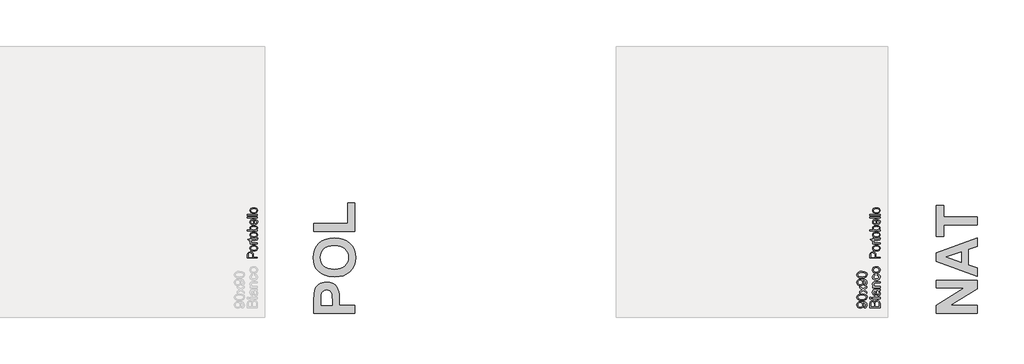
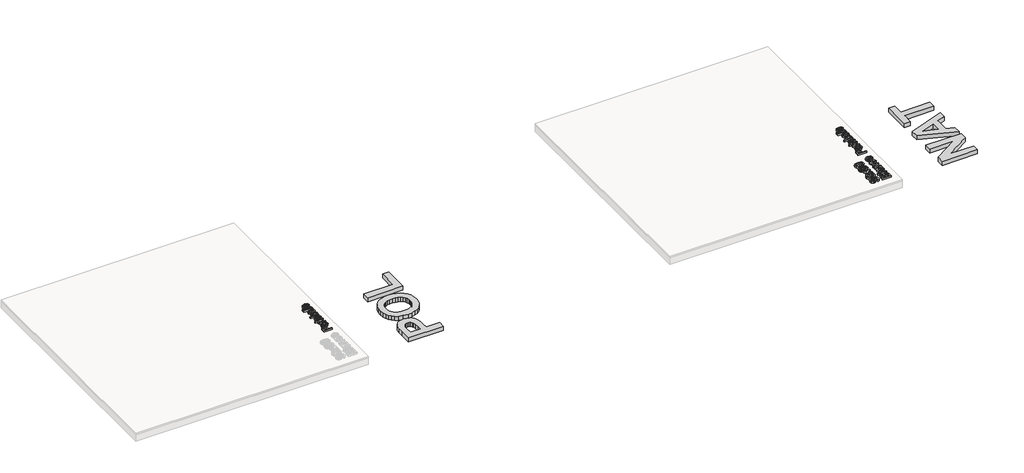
# One storey, part 8 of 14: 6 proxies.
"""IFC4 building model written with IfcOpenShell, lengths in millimetres."""

from ifc_helpers import new_model, si_unit, frame, origin, origin_with_axes, place, context, project, spatial, polyline, outline, extrude, element, save

model = new_model("IFC4")

# Units and contexts
model_context = context("Model", 3, world=origin())
ifc_project = project(units=[si_unit("LENGTHUNIT", "METRE", prefix="MILLI")], contexts=[model_context])

# Site, building, storey
site = spatial("IfcSite", under=ifc_project)
building = spatial("IfcBuilding", under=site)
storey = spatial("IfcBuildingStorey", under=building, Name="PORTOBELLO - SHOWROOM", Elevation=0.0)

# Proxies
placement = place(None, origin())
element("IfcBuildingElementProxy", 1, Name="10mm Arial", ObjectType="10mm Arial", at=placement, inside=storey, context=model_context, shape_type="SweptSolid", body=[
    extrude(outline(polyline([(-4352.1931166, 5529.8621307), (-4452.6494267, 5529.8621307), (-4452.6494267, 5568.1954346), (-4449.694108, 5586.9696791), (-4440.6074227, 5598.0551899), (-4427.7560784, 5602.0651036), (-4416.0206427, 5598.692852), (-4407.1301612, 5588.5025207), (-4397.761433, 5600.8756185), (-4382.138711, 5605.2043633), (-4368.6374418, 5602.2490446), (-4359.0234589, 5594.9281929), (-4353.9221619, 5584.0020977), (-4352.1931166, 5567.901129), (-4352.1931166, 5529.8621307)]), holes=[polyline([(-4411.8390507, 5542.4191695), (-4411.8390507, 5565.3504805), (-4412.9181712, 5578.7413851), (-4417.5657471, 5586.7980008), (-4425.7449901, 5589.5080648), (-4433.9364959, 5586.9819418), (-4438.7802755, 5579.7469292), (-4440.0923879, 5563.6091724), (-4440.0923879, 5542.4191695), (-4411.8390507, 5542.4191695)]), polyline([(-4364.7501553, 5542.4191695), (-4364.7501553, 5568.1709091), (-4365.2406647, 5577.4905863), (-4367.9752542, 5585.3755238), (-4373.5547978, 5590.5994481), (-4382.0160836, 5592.6473245), (-4391.7772192, 5590.2438288), (-4397.6020175, 5582.4569933), (-4399.2820119, 5566.9446358), (-4399.2820119, 5542.4191695), (-4364.7501553, 5542.4191695)])]), frame((0.0, 0.0, 18.0), z_axis=(0.0, 0.0, 1.0), x_axis=(1.0, 0.0, 0.0)), (0.0, 0.0, 1.0), 20.0),
    extrude(outline(polyline([(-4440.0923879, 5620.9006618), (-4452.6494267, 5620.9006618), (-4452.6494267, 5633.4577005), (-4440.0923879, 5633.4577005), (-4440.0923879, 5620.9006618)])), frame((0.0, 0.0, 18.0), z_axis=(0.0, 0.0, 1.0), x_axis=(1.0, 0.0, 0.0)), (0.0, 0.0, 1.0), 20.0),
    extrude(outline(polyline([(-4352.1931166, 5620.9006618), (-4425.9657193, 5620.9006618), (-4425.9657193, 5633.4577005), (-4352.1931166, 5633.4577005), (-4352.1931166, 5620.9006618)])), frame((0.0, 0.0, 18.0), z_axis=(0.0, 0.0, 1.0), x_axis=(1.0, 0.0, 0.0)), (0.0, 0.0, 1.0), 20.0),
    extrude(outline(polyline([(-4361.6108956, 5699.3821541), (-4353.1005588, 5687.20526), (-4350.6234867, 5673.7530417), (-4352.1134088, 5663.2592078), (-4356.583175, 5655.5183575), (-4363.3705979, 5650.7450886), (-4371.8134896, 5649.153999), (-4381.7463035, 5651.5574947), (-4388.9567906, 5657.8728023), (-4393.077069, 5666.665182), (-4394.9655299, 5677.5299636), (-4399.2820119, 5699.3085777), (-4402.0779151, 5699.3821541), (-4411.3485414, 5695.9240633), (-4414.9783104, 5682.0426494), (-4412.562552, 5669.3384578), (-4403.9909015, 5663.2806676), (-4405.5605313, 5650.7236288), (-4417.8232645, 5656.1560196), (-4425.0092261, 5667.0943776), (-4427.5353492, 5683.6613301), (-4425.3035317, 5698.879382), (-4419.6994627, 5707.475558), (-4411.1768631, 5711.3260562), (-4400.1894542, 5711.9391928), (-4384.5667321, 5711.9391928), (-4362.7513298, 5712.576855), (-4352.1931166, 5715.0784525), (-4352.1931166, 5702.5214138), (-4361.6108956, 5699.3821541)]), holes=[polyline([(-4386.7249732, 5699.3821541), (-4382.874475, 5679.1241189), (-4380.8388613, 5668.3206509), (-4377.5279233, 5663.4278204), (-4372.6964064, 5661.7110378), (-4365.9028523, 5665.4511714), (-4363.1805255, 5676.4263176), (-4366.1848951, 5689.1305091), (-4373.4566959, 5697.3220149), (-4383.1687806, 5699.3085777), (-4386.7249732, 5699.3821541)])]), frame((0.0, 0.0, 18.0), z_axis=(0.0, 0.0, 1.0), x_axis=(1.0, 0.0, 0.0)), (0.0, 0.0, 1.0), 20.0),
    extrude(outline(polyline([(-4352.1931166, 5729.2051211), (-4425.9657193, 5729.2051211), (-4425.9657193, 5741.7621599), (-4415.6650235, 5741.7621599), (-4424.5677678, 5751.36388), (-4427.5353492, 5764.4727418), (-4425.1441162, 5776.3308047), (-4418.8655968, 5784.4242086), (-4409.6317587, 5788.1888677), (-4397.4916529, 5788.8510553), (-4352.1931166, 5788.8510553), (-4352.1931166, 5776.2940165), (-4395.7993957, 5776.2940165), (-4406.909432, 5774.847014), (-4412.7832812, 5769.7334543), (-4414.9783104, 5761.1127529), (-4410.0486917, 5747.4888563), (-4402.9056496, 5743.193834), (-4391.3357609, 5741.7621599), (-4352.1931166, 5741.7621599), (-4352.1931166, 5729.2051211)])), frame((0.0, 0.0, 18.0), z_axis=(0.0, 0.0, 1.0), x_axis=(1.0, 0.0, 0.0)), (0.0, 0.0, 1.0), 20.0),
    extrude(outline(polyline([(-4378.8768239, 5853.205879), (-4377.3071941, 5865.7629178), (-4366.1389099, 5862.2619074), (-4357.6990838, 5855.6829511), (-4352.392386, 5846.6453167), (-4350.6234867, 5835.7682724), (-4353.0913618, 5822.4110903), (-4360.4949869, 5811.9663073), (-4372.5093997, 5805.2248698), (-4388.8096378, 5802.9777239), (-4409.6685469, 5806.8159594), (-4423.0717143, 5818.5146068), (-4427.5353492, 5835.5965942), (-4426.0025075, 5846.206924), (-4421.4039826, 5854.6896697), (-4413.985029, 5860.775051), (-4403.9909015, 5864.1932879), (-4402.4212716, 5851.6362491), (-4411.826788, 5845.8114509), (-4414.9783104, 5835.694696), (-4413.4270747, 5827.5798323), (-4408.7733674, 5821.1388317), (-4400.7658027, 5816.9357799), (-4389.1529943, 5815.5347627), (-4377.3838362, 5816.9051231), (-4369.3486803, 5821.0162044), (-4364.7225642, 5827.340709), (-4363.1805255, 5835.3513395), (-4367.0310237, 5847.184877), (-4378.8768239, 5853.205879)])), frame((0.0, 0.0, 18.0), z_axis=(0.0, 0.0, 1.0), x_axis=(1.0, 0.0, 0.0)), (0.0, 0.0, 1.0), 20.0),
    extrude(outline(polyline([(-4389.0794179, 5873.611067), (-4406.8665124, 5876.3272624), (-4419.3683689, 5884.4758486), (-4425.4936041, 5894.5435525), (-4427.5353492, 5906.5978192), (-4425.04908, 5919.7894544), (-4417.5902726, 5930.3262079), (-4405.747538, 5937.2331924), (-4390.1094875, 5939.5355205), (-4367.7667877, 5935.4642931), (-4355.1239098, 5923.6062301), (-4350.6234867, 5906.5978192), (-4353.1005588, 5893.2467685), (-4360.5317751, 5882.7222777), (-4372.62283, 5875.8888697), (-4389.0794179, 5873.611067)]), holes=[polyline([(-4389.1039434, 5886.1681058), (-4377.7394554, 5887.6212396), (-4369.6429859, 5891.9806413), (-4364.7961406, 5898.5412035), (-4363.1805255, 5906.5978192), (-4364.8053376, 5914.6176467), (-4369.6797741, 5921.1659462), (-4377.8835426, 5925.5253479), (-4389.4963509, 5926.9784818), (-4400.529745, 5925.5161508), (-4408.51585, 5921.129158), (-4413.3626953, 5914.5716615), (-4414.9783104, 5906.5978192), (-4413.3688267, 5898.5412035), (-4408.5403755, 5891.9806413), (-4400.4623, 5887.6212396), (-4389.1039434, 5886.1681058)])]), frame((0.0, 0.0, 18.0), z_axis=(0.0, 0.0, 1.0), x_axis=(1.0, 0.0, 0.0)), (0.0, 0.0, 1.0), 20.0),
])
element("IfcBuildingElementProxy", 2, Name="10mm Arial", ObjectType="10mm Arial", at=placement, inside=storey, context=model_context, shape_type="SweptSolid", body=[
    extrude(outline(polyline([(-4507.3071941, 5526.722871), (-4508.8768239, 5539.2799098), (-4496.8961336, 5544.920767), (-4493.1805255, 5555.6138704), (-4495.5717585, 5565.7796762), (-4501.9606424, 5572.6713322), (-4512.874475, 5576.7793478), (-4527.442602, 5578.5942323), (-4529.8951486, 5578.5206559), (-4520.3792677, 5568.4774775), (-4516.7249732, 5554.7064281), (-4518.9567906, 5543.256101), (-4525.6522429, 5533.7248916), (-4535.9958584, 5527.2961538), (-4549.1721652, 5525.1532412), (-4562.783799, 5527.400387), (-4573.4523768, 5534.1418246), (-4580.3501642, 5544.2677765), (-4582.6494267, 5556.6684654), (-4577.4009769, 5574.5597931), (-4562.4404424, 5586.8715772), (-4534.334258, 5591.0776947), (-4503.8368406, 5586.8838399), (-4493.8457788, 5581.6691127), (-4486.5586496, 5574.4126403), (-4482.1072774, 5565.4271226), (-4480.6234867, 5555.0252592), (-4482.3739919, 5544.2892363), (-4487.6255074, 5535.7237172), (-4496.0469394, 5529.733372), (-4507.3071941, 5526.722871)]), holes=[polyline([(-4549.4664708, 5578.5206559), (-4557.9768076, 5577.1656239), (-4564.5251071, 5573.1005279), (-4568.7005677, 5566.7913516), (-4570.0923879, 5558.7040791), (-4568.5932688, 5550.3163696), (-4564.0959114, 5543.5963918), (-4557.2134524, 5539.1818079), (-4548.5590285, 5537.7102799), (-4540.7997841, 5539.1021001), (-4534.6408263, 5543.2775608), (-4530.6217155, 5549.8319917), (-4529.2820119, 5558.3607226), (-4534.6408263, 5572.8430105), (-4541.0266446, 5577.1012446), (-4549.4664708, 5578.5206559)])]), frame((0.0, 0.0, 18.0), z_axis=(0.0, 0.0, 1.0), x_axis=(1.0, 0.0, 0.0)), (0.0, 0.0, 1.0), 20.0),
    extrude(outline(polyline([(-4531.6119313, 5602.0651036), (-4560.5151933, 5605.7561863), (-4577.1802477, 5616.7190698), (-4582.6494267, 5635.0273304), (-4579.4120652, 5649.6935593), (-4570.0801252, 5659.8225769), (-4555.2176926, 5665.7086888), (-4531.6119313, 5667.9895571), (-4502.8312965, 5664.3352627), (-4486.1294539, 5653.4091674), (-4481.9999785, 5645.1778078), (-4480.6234867, 5635.0273304), (-4483.0147197, 5621.9797823), (-4490.1884186, 5612.0714939), (-4507.1784354, 5604.5667012), (-4531.6119313, 5602.0651036)]), holes=[polyline([(-4531.6364567, 5614.6221424), (-4511.8842593, 5616.0936704), (-4500.4523263, 5620.5082543), (-4494.9984757, 5627.0810793), (-4493.1805255, 5635.0273304), (-4495.004607, 5642.9735815), (-4500.4768517, 5649.5464065), (-4511.9149161, 5653.9609904), (-4531.6364567, 5655.4325184), (-4550.9441301, 5654.0100413), (-4562.4649679, 5649.7426102), (-4568.1855329, 5643.1820479), (-4570.0923879, 5634.8801776), (-4568.4123935, 5627.0197656), (-4563.3724102, 5620.704458), (-4551.1342025, 5616.1427213), (-4531.6364567, 5614.6221424)])]), frame((0.0, 0.0, 18.0), z_axis=(0.0, 0.0, 1.0), x_axis=(1.0, 0.0, 0.0)), (0.0, 0.0, 1.0), 20.0),
    extrude(outline(polyline([(-4482.1931166, 5674.2680765), (-4519.3001471, 5701.0989367), (-4555.9657193, 5675.8377064), (-4555.9657193, 5690.8963427), (-4538.2828581, 5703.0854995), (-4529.968725, 5708.7999331), (-4536.7868047, 5713.7540773), (-4555.9657193, 5727.6354913), (-4555.9657193, 5742.7431786), (-4519.2756217, 5716.206624), (-4482.1931166, 5741.7621599), (-4482.1931166, 5726.6789981), (-4504.5112909, 5711.2770052), (-4508.6070438, 5708.4811021), (-4482.1931166, 5689.3757638), (-4482.1931166, 5674.2680765)])), frame((0.0, 0.0, 18.0), z_axis=(0.0, 0.0, 1.0), x_axis=(1.0, 0.0, 0.0)), (0.0, 0.0, 1.0), 20.0),
    extrude(outline(polyline([(-4507.3071941, 5751.179939), (-4508.8768239, 5763.7369778), (-4496.8961336, 5769.377835), (-4493.1805255, 5780.0709383), (-4495.5717585, 5790.2367441), (-4501.9606424, 5797.1284002), (-4512.874475, 5801.2364158), (-4527.442602, 5803.0513003), (-4529.8951486, 5802.9777239), (-4520.3792677, 5792.9345454), (-4516.7249732, 5779.1634961), (-4518.9567906, 5767.713169), (-4525.6522429, 5758.1819596), (-4535.9958584, 5751.7532218), (-4549.1721652, 5749.6103091), (-4562.783799, 5751.857455), (-4573.4523768, 5758.5988926), (-4580.3501642, 5768.7248445), (-4582.6494267, 5781.1255334), (-4577.4009769, 5799.0168611), (-4562.4404424, 5811.3286452), (-4534.334258, 5815.5347627), (-4503.8368406, 5811.3409079), (-4493.8457788, 5806.1261807), (-4486.5586496, 5798.8697083), (-4482.1072774, 5789.8841906), (-4480.6234867, 5779.4823272), (-4482.3739919, 5768.7463043), (-4487.6255074, 5760.1807851), (-4496.0469394, 5754.19044), (-4507.3071941, 5751.179939)]), holes=[polyline([(-4549.4664708, 5802.9777239), (-4557.9768076, 5801.6226919), (-4564.5251071, 5797.5575959), (-4568.7005677, 5791.2484196), (-4570.0923879, 5783.1611471), (-4568.5932688, 5774.7734376), (-4564.0959114, 5768.0534598), (-4557.2134524, 5763.6388759), (-4548.5590285, 5762.1673479), (-4540.7997841, 5763.5591681), (-4534.6408263, 5767.7346288), (-4530.6217155, 5774.2890597), (-4529.2820119, 5782.8177906), (-4534.6408263, 5797.3000785), (-4541.0266446, 5801.5583125), (-4549.4664708, 5802.9777239)])]), frame((0.0, 0.0, 18.0), z_axis=(0.0, 0.0, 1.0), x_axis=(1.0, 0.0, 0.0)), (0.0, 0.0, 1.0), 20.0),
    extrude(outline(polyline([(-4531.6119313, 5826.5221716), (-4560.5151933, 5830.2132543), (-4577.1802477, 5841.1761377), (-4582.6494267, 5859.4843984), (-4579.4120652, 5874.1506272), (-4570.0801252, 5884.2796448), (-4555.2176926, 5890.1657568), (-4531.6119313, 5892.4466251), (-4502.8312965, 5888.7923307), (-4486.1294539, 5877.8662354), (-4481.9999785, 5869.6348758), (-4480.6234867, 5859.4843984), (-4483.0147197, 5846.4368503), (-4490.1884186, 5836.5285619), (-4507.1784354, 5829.0237692), (-4531.6119313, 5826.5221716)]), holes=[polyline([(-4531.6364567, 5839.0792104), (-4511.8842593, 5840.5507384), (-4500.4523263, 5844.9653223), (-4494.9984757, 5851.5381473), (-4493.1805255, 5859.4843984), (-4495.004607, 5867.4306495), (-4500.4768517, 5874.0034744), (-4511.9149161, 5878.4180584), (-4531.6364567, 5879.8895864), (-4550.9441301, 5878.4671093), (-4562.4649679, 5874.1996782), (-4568.1855329, 5867.6391159), (-4570.0923879, 5859.3372456), (-4568.4123935, 5851.4768336), (-4563.3724102, 5845.161526), (-4551.1342025, 5840.5997893), (-4531.6364567, 5839.0792104)])]), frame((0.0, 0.0, 18.0), z_axis=(0.0, 0.0, 1.0), x_axis=(1.0, 0.0, 0.0)), (0.0, 0.0, 1.0), 20.0),
])
element("IfcBuildingElementProxy", 3, Name="10mm Arial Narrow", ObjectType="10mm Arial Narrow", at=placement, inside=storey, context=model_context, shape_type="SweptSolid", body=[
    extrude(outline(polyline([(-10552.2181326, 6024.5809264), (-10652.9367364, 6024.5809264), (-10652.9367364, 6055.8778111), (-10651.0584157, 6072.1735126), (-10641.5779725, 6083.6464987), (-10624.5588637, 6087.9361772), (-10612.4830381, 6086.1498688), (-10602.8566444, 6080.7909436), (-10596.555386, 6071.0471547), (-10594.4549665, 6056.1062555), (-10594.4549665, 6034.3278881), (-10552.2181326, 6034.3278881), (-10552.2181326, 6024.5809264)]), holes=[polyline([(-10605.8264217, 6034.3278881), (-10605.8264217, 6057.299243), (-10610.3572359, 6073.1634384), (-10624.0258267, 6078.1892155), (-10634.1916031, 6075.714401), (-10639.991553, 6069.7367722), (-10641.5652811, 6057.0707986), (-10641.5652811, 6034.3278881), (-10605.8264217, 6034.3278881)])]), frame((0.0, 0.0, 18.0), z_axis=(0.0, 0.0, 1.0), x_axis=(1.0, 0.0, 0.0)), (0.0, 0.0, 1.0), 20.0),
    extrude(outline(polyline([(-10588.7692388, 6096.0586452), (-10605.3600144, 6098.0131141), (-10617.3120992, 6103.8765207), (-10624.5366538, 6112.7350874), (-10626.9448387, 6123.6750366), (-10624.5366538, 6134.4880721), (-10617.3120992, 6143.3720216), (-10605.5503847, 6149.3115763), (-10589.5307202, 6151.2914279), (-10572.3688336, 6149.3464776), (-10560.2263785, 6143.5116265), (-10553.0018239, 6134.6625783), (-10550.593639, 6123.6750366), (-10553.0081696, 6112.8144084), (-10560.2517612, 6103.9399775), (-10572.2101917, 6098.0289783), (-10588.7692388, 6096.0586452)]), holes=[polyline([(-10588.7946216, 6105.8056069), (-10576.2428702, 6107.1096437), (-10567.3716121, 6111.0217543), (-10562.0983535, 6116.8629511), (-10560.3406007, 6123.9542464), (-10562.1142177, 6130.6743196), (-10567.4350689, 6136.3663929), (-10576.3221911, 6140.2499479), (-10588.7946216, 6141.5444663), (-10601.3082989, 6140.2404294), (-10610.1668656, 6136.3283188), (-10615.4401242, 6130.4871221), (-10617.197877, 6123.3958267), (-10615.4306056, 6116.628161), (-10610.1287915, 6110.9456062), (-10601.2607063, 6107.0906067), (-10588.7946216, 6105.8056069)])]), frame((0.0, 0.0, 18.0), z_axis=(0.0, 0.0, 1.0), x_axis=(1.0, 0.0, 0.0)), (0.0, 0.0, 1.0), 20.0),
    extrude(outline(polyline([(-10560.3406007, 6222.7691467), (-10550.593639, 6224.3936403), (-10550.593639, 6217.0326537), (-10552.7130955, 6208.7578893), (-10558.5130454, 6204.4428282), (-10573.1588706, 6203.2752234), (-10615.5733834, 6203.2752234), (-10615.5733834, 6195.1527554), (-10618.8223706, 6195.1527554), (-10613.9488898, 6193.5282617), (-10615.5733834, 6185.9642134), (-10613.2508652, 6179.8850537), (-10606.7655821, 6176.01419), (-10591.3582755, 6174.0343384), (-10552.2181326, 6174.0343384), (-10552.2181326, 6164.2873768), (-10625.320345, 6164.2873768), (-10625.320345, 6174.0343384), (-10615.6241488, 6174.0343384), (-10624.7111599, 6180.2784858), (-10626.9448387, 6186.6749293), (-10625.320345, 6195.1527554), (-10625.320345, 6203.2752234), (-10641.5652811, 6203.2752234), (-10649.6877492, 6213.0221851), (-10625.320345, 6213.0221851), (-10625.320345, 6222.7691467), (-10615.5733834, 6222.7691467), (-10615.5733834, 6213.0221851), (-10570.9251919, 6213.0221851), (-10562.9296374, 6213.8851973), (-10560.3406007, 6218.504851), (-10560.3406007, 6222.7691467)])), frame((0.0, 0.0, 18.0), z_axis=(0.0, 0.0, 1.0), x_axis=(1.0, 0.0, 0.0)), (0.0, 0.0, 1.0), 20.0),
    extrude(outline(polyline([(-10588.7692388, 6229.2671211), (-10605.3600144, 6231.22159), (-10617.3120992, 6237.0849966), (-10624.5366538, 6245.9435633), (-10626.9448387, 6256.8835125), (-10624.5366538, 6267.6965481), (-10617.3120992, 6276.5804975), (-10605.5503847, 6282.5200523), (-10589.5307202, 6284.4999038), (-10572.3688336, 6282.5549535), (-10560.2263785, 6276.7201024), (-10553.0018239, 6267.8710542), (-10550.593639, 6256.8835125), (-10553.0081696, 6246.0228843), (-10560.2517612, 6237.1484534), (-10572.2101917, 6231.2374542), (-10588.7692388, 6229.2671211)]), holes=[polyline([(-10588.7946216, 6239.0140828), (-10576.2428702, 6240.3181197), (-10567.3716121, 6244.2302302), (-10562.0983535, 6250.071427), (-10560.3406007, 6257.1627223), (-10562.1142177, 6263.8827955), (-10567.4350689, 6269.5748688), (-10576.3221911, 6273.4584238), (-10588.7946216, 6274.7529422), (-10601.3082989, 6273.4489053), (-10610.1668656, 6269.5367947), (-10615.4401242, 6263.695598), (-10617.197877, 6256.6043027), (-10615.4306056, 6249.8366369), (-10610.1287915, 6244.1540821), (-10601.2607063, 6240.2990826), (-10588.7946216, 6239.0140828)])]), frame((0.0, 0.0, 18.0), z_axis=(0.0, 0.0, 1.0), x_axis=(1.0, 0.0, 0.0)), (0.0, 0.0, 1.0), 20.0),
    extrude(outline(polyline([(-10552.2181326, 6307.2428144), (-10552.2181326, 6297.4958527), (-10652.9367364, 6297.4958527), (-10652.9367364, 6307.2428144), (-10617.5278523, 6307.2428144), (-10624.6096291, 6314.6418751), (-10626.9448387, 6323.8431084), (-10622.7439997, 6336.7248351), (-10610.0145693, 6346.0022166), (-10589.3276585, 6349.4796482), (-10572.8733151, 6347.5473892), (-10560.670576, 6341.7506122), (-10553.1128733, 6333.3774899), (-10550.593639, 6323.7161949), (-10553.2080584, 6314.3753566), (-10560.9751685, 6307.2428144), (-10552.2181326, 6307.2428144)]), holes=[polyline([(-10589.3276585, 6307.2428144), (-10572.0801053, 6309.3241968), (-10563.3484521, 6315.2129861), (-10560.3406007, 6323.6654295), (-10562.1300819, 6329.608157), (-10567.4985257, 6334.8465144), (-10588.9215351, 6339.7326866), (-10610.3572359, 6335.0241934), (-10615.4877167, 6329.7794904), (-10617.197877, 6323.4623677), (-10615.4083958, 6317.4847389), (-10610.039952, 6312.1924433), (-10589.3276585, 6307.2428144)])]), frame((0.0, 0.0, 18.0), z_axis=(0.0, 0.0, 1.0), x_axis=(1.0, 0.0, 0.0)), (0.0, 0.0, 1.0), 20.0),
    extrude(outline(polyline([(-10574.9610432, 6401.4634437), (-10573.3365496, 6411.2104053), (-10563.449983, 6407.510875), (-10556.3301321, 6401.6918881), (-10552.0277623, 6393.9882348), (-10550.593639, 6384.6347052), (-10553.0081696, 6373.0411512), (-10560.2517612, 6363.897029), (-10572.0578954, 6357.9574742), (-10588.1600537, 6355.9776226), (-10604.8269774, 6357.9669927), (-10617.0075067, 6363.9351031), (-10624.4605057, 6372.9491389), (-10626.9448387, 6384.0762855), (-10624.5461723, 6394.7592347), (-10617.3501733, 6403.5067521), (-10605.6106687, 6409.3416031), (-10589.5814857, 6411.2865535), (-10586.3324984, 6411.2104053), (-10586.3324984, 6365.7245843), (-10566.8893406, 6371.7275958), (-10561.9777857, 6377.6576321), (-10560.3406007, 6384.7616188), (-10563.9957113, 6394.9400865), (-10574.9610432, 6401.4634437)]), holes=[polyline([(-10596.0794601, 6366.3845348), (-10596.0794601, 6401.4634437), (-10610.3445446, 6397.199148), (-10615.4845439, 6391.3738154), (-10617.197877, 6384.1524337), (-10611.4867667, 6371.9433489), (-10596.0794601, 6366.3845348)])]), frame((0.0, 0.0, 18.0), z_axis=(0.0, 0.0, 1.0), x_axis=(1.0, 0.0, 0.0)), (0.0, 0.0, 1.0), 20.0),
    extrude(outline(polyline([(-10552.2181326, 6424.2063542), (-10652.9367364, 6424.2063542), (-10652.9367364, 6433.9533159), (-10552.2181326, 6433.9533159), (-10552.2181326, 6424.2063542)])), frame((0.0, 0.0, 18.0), z_axis=(0.0, 0.0, 1.0), x_axis=(1.0, 0.0, 0.0)), (0.0, 0.0, 1.0), 20.0),
    extrude(outline(polyline([(-10552.2181326, 6450.198252), (-10652.9367364, 6450.198252), (-10652.9367364, 6459.9452136), (-10552.2181326, 6459.9452136), (-10552.2181326, 6450.198252)])), frame((0.0, 0.0, 18.0), z_axis=(0.0, 0.0, 1.0), x_axis=(1.0, 0.0, 0.0)), (0.0, 0.0, 1.0), 20.0),
    extrude(outline(polyline([(-10588.7692388, 6471.3166689), (-10605.3600144, 6473.2711377), (-10617.3120992, 6479.1345444), (-10624.5366538, 6487.9931111), (-10626.9448387, 6498.9330602), (-10624.5366538, 6509.7460958), (-10617.3120992, 6518.6300452), (-10605.5503847, 6524.5696), (-10589.5307202, 6526.5494516), (-10572.3688336, 6524.6045012), (-10560.2263785, 6518.7696502), (-10553.0018239, 6509.920602), (-10550.593639, 6498.9330602), (-10553.0081696, 6488.0724321), (-10560.2517612, 6479.1980011), (-10572.2101917, 6473.2870019), (-10588.7692388, 6471.3166689)]), holes=[polyline([(-10588.7946216, 6481.0636305), (-10576.2428702, 6482.3676674), (-10567.3716121, 6486.279778), (-10562.0983535, 6492.1209747), (-10560.3406007, 6499.2122701), (-10562.1142177, 6505.9323432), (-10567.4350689, 6511.6244165), (-10576.3221911, 6515.5079716), (-10588.7946216, 6516.8024899), (-10601.3082989, 6515.4984531), (-10610.1668656, 6511.5863425), (-10615.4401242, 6505.7451457), (-10617.197877, 6498.6538504), (-10615.4306056, 6491.8861846), (-10610.1287915, 6486.2036298), (-10601.2607063, 6482.3486304), (-10588.7946216, 6481.0636305)])]), frame((0.0, 0.0, 18.0), z_axis=(0.0, 0.0, 1.0), x_axis=(1.0, 0.0, 0.0)), (0.0, 0.0, 1.0), 20.0),
])
element("IfcBuildingElementProxy", 4, Name="10mm Arial Narrow", ObjectType="10mm Arial Narrow", at=placement, inside=storey, context=model_context, shape_type="SweptSolid", body=[
    extrude(outline(polyline([(-4352.1931166, 6024.5809264), (-4452.9117203, 6024.5809264), (-4452.9117203, 6055.8778111), (-4451.0333996, 6072.1735126), (-4441.5529564, 6083.6464987), (-4424.5338476, 6087.9361772), (-4412.4580221, 6086.1498688), (-4402.8316283, 6080.7909436), (-4396.5303699, 6071.0471547), (-4394.4299504, 6056.1062555), (-4394.4299504, 6034.3278881), (-4352.1931166, 6034.3278881), (-4352.1931166, 6024.5809264)]), holes=[polyline([(-4405.8014057, 6034.3278881), (-4405.8014057, 6057.299243), (-4410.3322199, 6073.1634384), (-4424.0008106, 6078.1892155), (-4434.166587, 6075.714401), (-4439.9665369, 6069.7367722), (-4441.5402651, 6057.0707986), (-4441.5402651, 6034.3278881), (-4405.8014057, 6034.3278881)])]), frame((0.0, 0.0, 18.0), z_axis=(0.0, 0.0, 1.0), x_axis=(1.0, 0.0, 0.0)), (0.0, 0.0, 1.0), 20.0),
    extrude(outline(polyline([(-4388.7442228, 6096.0586452), (-4405.3349983, 6098.0131141), (-4417.2870831, 6103.8765207), (-4424.5116377, 6112.7350874), (-4426.9198226, 6123.6750366), (-4424.5116377, 6134.4880721), (-4417.2870831, 6143.3720216), (-4405.5253687, 6149.3115763), (-4389.5057041, 6151.2914279), (-4372.3438176, 6149.3464776), (-4360.2013624, 6143.5116265), (-4352.9768078, 6134.6625783), (-4350.568623, 6123.6750366), (-4352.9831535, 6112.8144084), (-4360.2267451, 6103.9399775), (-4372.1851756, 6098.0289783), (-4388.7442228, 6096.0586452)]), holes=[polyline([(-4388.7696055, 6105.8056069), (-4376.2178541, 6107.1096437), (-4367.346596, 6111.0217543), (-4362.0733375, 6116.8629511), (-4360.3155846, 6123.9542464), (-4362.0892017, 6130.6743196), (-4367.4100528, 6136.3663929), (-4376.2971751, 6140.2499479), (-4388.7696055, 6141.5444663), (-4401.2832828, 6140.2404294), (-4410.1418495, 6136.3283188), (-4415.4151081, 6130.4871221), (-4417.1728609, 6123.3958267), (-4415.4055896, 6116.628161), (-4410.1037755, 6110.9456062), (-4401.2356902, 6107.0906067), (-4388.7696055, 6105.8056069)])]), frame((0.0, 0.0, 18.0), z_axis=(0.0, 0.0, 1.0), x_axis=(1.0, 0.0, 0.0)), (0.0, 0.0, 1.0), 20.0),
    extrude(outline(polyline([(-4360.3155846, 6222.7691467), (-4350.568623, 6224.3936403), (-4350.568623, 6217.0326537), (-4352.6880795, 6208.7578893), (-4358.4880293, 6204.4428282), (-4373.1338545, 6203.2752234), (-4415.5483673, 6203.2752234), (-4415.5483673, 6195.1527554), (-4418.7973545, 6195.1527554), (-4413.9238737, 6193.5282617), (-4415.5483673, 6185.9642134), (-4413.2258491, 6179.8850537), (-4406.740566, 6176.01419), (-4391.3332595, 6174.0343384), (-4352.1931166, 6174.0343384), (-4352.1931166, 6164.2873768), (-4425.295329, 6164.2873768), (-4425.295329, 6174.0343384), (-4415.5991327, 6174.0343384), (-4424.6861439, 6180.2784858), (-4426.9198226, 6186.6749293), (-4425.295329, 6195.1527554), (-4425.295329, 6203.2752234), (-4441.5402651, 6203.2752234), (-4449.6627331, 6213.0221851), (-4425.295329, 6213.0221851), (-4425.295329, 6222.7691467), (-4415.5483673, 6222.7691467), (-4415.5483673, 6213.0221851), (-4370.9001758, 6213.0221851), (-4362.9046213, 6213.8851973), (-4360.3155846, 6218.504851), (-4360.3155846, 6222.7691467)])), frame((0.0, 0.0, 18.0), z_axis=(0.0, 0.0, 1.0), x_axis=(1.0, 0.0, 0.0)), (0.0, 0.0, 1.0), 20.0),
    extrude(outline(polyline([(-4388.7442228, 6229.2671211), (-4405.3349983, 6231.22159), (-4417.2870831, 6237.0849966), (-4424.5116377, 6245.9435633), (-4426.9198226, 6256.8835125), (-4424.5116377, 6267.6965481), (-4417.2870831, 6276.5804975), (-4405.5253687, 6282.5200523), (-4389.5057041, 6284.4999038), (-4372.3438176, 6282.5549535), (-4360.2013624, 6276.7201024), (-4352.9768078, 6267.8710542), (-4350.568623, 6256.8835125), (-4352.9831535, 6246.0228843), (-4360.2267451, 6237.1484534), (-4372.1851756, 6231.2374542), (-4388.7442228, 6229.2671211)]), holes=[polyline([(-4388.7696055, 6239.0140828), (-4376.2178541, 6240.3181197), (-4367.346596, 6244.2302302), (-4362.0733375, 6250.071427), (-4360.3155846, 6257.1627223), (-4362.0892017, 6263.8827955), (-4367.4100528, 6269.5748688), (-4376.2971751, 6273.4584238), (-4388.7696055, 6274.7529422), (-4401.2832828, 6273.4489053), (-4410.1418495, 6269.5367947), (-4415.4151081, 6263.695598), (-4417.1728609, 6256.6043027), (-4415.4055896, 6249.8366369), (-4410.1037755, 6244.1540821), (-4401.2356902, 6240.2990826), (-4388.7696055, 6239.0140828)])]), frame((0.0, 0.0, 18.0), z_axis=(0.0, 0.0, 1.0), x_axis=(1.0, 0.0, 0.0)), (0.0, 0.0, 1.0), 20.0),
    extrude(outline(polyline([(-4352.1931166, 6307.2428144), (-4352.1931166, 6297.4958527), (-4452.9117203, 6297.4958527), (-4452.9117203, 6307.2428144), (-4417.5028362, 6307.2428144), (-4424.584613, 6314.6418751), (-4426.9198226, 6323.8431084), (-4422.7189836, 6336.7248351), (-4409.9895532, 6346.0022166), (-4389.3026424, 6349.4796482), (-4372.848299, 6347.5473892), (-4360.6455599, 6341.7506122), (-4353.0878572, 6333.3774899), (-4350.568623, 6323.7161949), (-4353.1830424, 6314.3753566), (-4360.9501524, 6307.2428144), (-4352.1931166, 6307.2428144)]), holes=[polyline([(-4389.3026424, 6307.2428144), (-4372.0550892, 6309.3241968), (-4363.3234361, 6315.2129861), (-4360.3155846, 6323.6654295), (-4362.1050659, 6329.608157), (-4367.4735096, 6334.8465144), (-4388.896519, 6339.7326866), (-4410.3322199, 6335.0241934), (-4415.4627007, 6329.7794904), (-4417.1728609, 6323.4623677), (-4415.3833797, 6317.4847389), (-4410.014936, 6312.1924433), (-4389.3026424, 6307.2428144)])]), frame((0.0, 0.0, 18.0), z_axis=(0.0, 0.0, 1.0), x_axis=(1.0, 0.0, 0.0)), (0.0, 0.0, 1.0), 20.0),
    extrude(outline(polyline([(-4374.9360271, 6401.4634437), (-4373.3115335, 6411.2104053), (-4363.4249669, 6407.510875), (-4356.305116, 6401.6918881), (-4352.0027462, 6393.9882348), (-4350.568623, 6384.6347052), (-4352.9831535, 6373.0411512), (-4360.2267451, 6363.897029), (-4372.0328793, 6357.9574742), (-4388.1350377, 6355.9776226), (-4404.8019614, 6357.9669927), (-4416.9824906, 6363.9351031), (-4424.4354896, 6372.9491389), (-4426.9198226, 6384.0762855), (-4424.5211562, 6394.7592347), (-4417.3251572, 6403.5067521), (-4405.5856526, 6409.3416031), (-4389.5564696, 6411.2865535), (-4386.3074824, 6411.2104053), (-4386.3074824, 6365.7245843), (-4366.8643245, 6371.7275958), (-4361.9527696, 6377.6576321), (-4360.3155846, 6384.7616188), (-4363.9706952, 6394.9400865), (-4374.9360271, 6401.4634437)]), holes=[polyline([(-4396.054444, 6366.3845348), (-4396.054444, 6401.4634437), (-4410.3195285, 6397.199148), (-4415.4595278, 6391.3738154), (-4417.1728609, 6384.1524337), (-4411.4617506, 6371.9433489), (-4396.054444, 6366.3845348)])]), frame((0.0, 0.0, 18.0), z_axis=(0.0, 0.0, 1.0), x_axis=(1.0, 0.0, 0.0)), (0.0, 0.0, 1.0), 20.0),
    extrude(outline(polyline([(-4352.1931166, 6424.2063542), (-4452.9117203, 6424.2063542), (-4452.9117203, 6433.9533159), (-4352.1931166, 6433.9533159), (-4352.1931166, 6424.2063542)])), frame((0.0, 0.0, 18.0), z_axis=(0.0, 0.0, 1.0), x_axis=(1.0, 0.0, 0.0)), (0.0, 0.0, 1.0), 20.0),
    extrude(outline(polyline([(-4352.1931166, 6450.198252), (-4452.9117203, 6450.198252), (-4452.9117203, 6459.9452136), (-4352.1931166, 6459.9452136), (-4352.1931166, 6450.198252)])), frame((0.0, 0.0, 18.0), z_axis=(0.0, 0.0, 1.0), x_axis=(1.0, 0.0, 0.0)), (0.0, 0.0, 1.0), 20.0),
    extrude(outline(polyline([(-4388.7442228, 6471.3166689), (-4405.3349983, 6473.2711377), (-4417.2870831, 6479.1345444), (-4424.5116377, 6487.9931111), (-4426.9198226, 6498.9330602), (-4424.5116377, 6509.7460958), (-4417.2870831, 6518.6300452), (-4405.5253687, 6524.5696), (-4389.5057041, 6526.5494516), (-4372.3438176, 6524.6045012), (-4360.2013624, 6518.7696502), (-4352.9768078, 6509.920602), (-4350.568623, 6498.9330602), (-4352.9831535, 6488.0724321), (-4360.2267451, 6479.1980011), (-4372.1851756, 6473.2870019), (-4388.7442228, 6471.3166689)]), holes=[polyline([(-4388.7696055, 6481.0636305), (-4376.2178541, 6482.3676674), (-4367.346596, 6486.279778), (-4362.0733375, 6492.1209747), (-4360.3155846, 6499.2122701), (-4362.0892017, 6505.9323432), (-4367.4100528, 6511.6244165), (-4376.2971751, 6515.5079716), (-4388.7696055, 6516.8024899), (-4401.2832828, 6515.4984531), (-4410.1418495, 6511.5863425), (-4415.4151081, 6505.7451457), (-4417.1728609, 6498.6538504), (-4415.4055896, 6491.8861846), (-4410.1037755, 6486.2036298), (-4401.2356902, 6482.3486304), (-4388.7696055, 6481.0636305)])]), frame((0.0, 0.0, 18.0), z_axis=(0.0, 0.0, 1.0), x_axis=(1.0, 0.0, 0.0)), (0.0, 0.0, 1.0), 20.0),
])
element("IfcBuildingElementProxy", 5, Name="400mm Arial", ObjectType="400mm Arial", at=placement, inside=storey, context=model_context, shape_type="SweptSolid", body=[
    extrude(outline(polyline([(-9582.0076751, 5474.2512362), (-9990.1114351, 5474.2512362), (-9990.1114351, 5605.7310934), (-9988.5931919, 5667.4982857), (-9984.0384625, 5703.2023039), (-9969.5518924, 5735.2751905), (-9944.3110999, 5761.6546654), (-9927.8919328, 5771.9502517), (-9909.2523351, 5779.304242), (-9888.3923067, 5783.7166362), (-9865.3118478, 5785.1874343), (-9830.9362923, 5781.7334311), (-9802.5071893, 5771.3714215), (-9779.78415, 5755.6829089), (-9762.5267862, 5736.2493966), (-9750.4441011, 5714.778908), (-9743.2450981, 5692.9794667), (-9738.9181051, 5656.4151107), (-9737.4757741, 5606.4396068), (-9737.4757741, 5551.9852857), (-9582.0076751, 5551.9852857), (-9582.0076751, 5474.2512362)]), holes=[polyline([(-9918.855223, 5551.9852857), (-9808.7319862, 5551.9852857), (-9808.7319862, 5600.265418), (-9810.2502293, 5643.7504324), (-9814.8049588, 5669.9527788), (-9822.611259, 5685.6159874), (-9833.8842145, 5697.483588), (-9847.9406157, 5704.9609356), (-9864.0972532, 5707.4533847), (-9883.4042453, 5703.9487735), (-9899.0168458, 5693.4349396), (-9910.201237, 5677.5819507), (-9916.2236015, 5658.0598741), (-9918.855223, 5594.5973102), (-9918.855223, 5551.9852857)])]), origin_with_axes(), (0.0, 0.0, 1.0), 50.0),
    extrude(outline(polyline([(-9783.5291498, 5837.0101339), (-9840.7669168, 5841.5901675), (-9887.9842789, 5855.330268), (-9917.4761521, 5871.4869056), (-9943.8050189, 5892.6284415), (-9965.3514196, 5917.3884569), (-9980.4958951, 5944.4005331), (-9992.5659282, 5984.7351929), (-9996.5892725, 6030.8391767), (-9993.1004763, 6072.9071641), (-9982.6340875, 6110.5469423), (-9965.1901063, 6143.7585113), (-9940.7685325, 6172.5418711), (-9910.1348139, 6195.7899694), (-9874.0543979, 6212.3957539), (-9832.5272846, 6222.3592246), (-9785.553474, 6225.6803815), (-9738.8991271, 6222.3845287), (-9697.6218913, 6212.4969701), (-9661.7217667, 6196.0177059), (-9631.1987533, 6172.946736), (-9606.8436027, 6144.3531566), (-9589.4470665, 6111.3060639), (-9579.0091449, 6073.805458), (-9575.5298376, 6031.8513388), (-9578.9933298, 5989.4543987), (-9589.3838064, 5951.6374921), (-9606.7012674, 5918.4006191), (-9630.9457128, 5889.7437795), (-9661.2631308, 5866.6728096), (-9696.7995096, 5850.1935453), (-9737.5548493, 5840.3059868), (-9783.5291498, 5837.0101339)]), holes=[polyline([(-9786.3632037, 5914.7441835), (-9754.0815586, 5916.8096267), (-9725.9624302, 5923.0059566), (-9702.0058184, 5933.3331731), (-9682.2117233, 5947.7912761), (-9666.7129911, 5965.4313638), (-9655.6424681, 5985.3045341), (-9649.0001543, 6007.410787), (-9646.7860497, 6031.7501226), (-9648.9843393, 6056.0641541), (-9655.579208, 6078.0944949), (-9666.5706558, 6097.8411449), (-9681.9586828, 6115.3041042), (-9701.7432889, 6129.5850789), (-9725.9244741, 6139.7857751), (-9754.5022385, 6145.9061928), (-9787.476582, 6147.946332), (-9819.9922896, 6145.9599639), (-9848.105092, 6140.0008595), (-9871.8149893, 6130.0690189), (-9891.1219814, 6116.164442), (-9906.0893285, 6098.9703383), (-9916.7802907, 6079.1699171), (-9923.194868, 6056.7631786), (-9925.3330605, 6031.7501226), (-9923.169564, 6006.7117626), (-9916.6790745, 5984.2291118), (-9905.861592, 5964.3021704), (-9890.7171165, 5946.9309383), (-9871.214018, 5932.8492331), (-9847.3206664, 5922.7908722), (-9819.0370616, 5916.7558556), (-9786.3632037, 5914.7441835)])]), origin_with_axes(), (0.0, 0.0, 1.0), 50.0),
    extrude(outline(polyline([(-9582.0076751, 6290.4587561), (-9990.1114351, 6290.4587561), (-9990.1114351, 6368.1928057), (-9653.2638871, 6368.1928057), (-9653.2638871, 6575.4836044), (-9582.0076751, 6575.4836044), (-9582.0076751, 6290.4587561)])), origin_with_axes(), (0.0, 0.0, 1.0), 50.0),
])
element("IfcBuildingElementProxy", 6, Name="400mm Arial", ObjectType="400mm Arial", at=placement, inside=storey, context=model_context, shape_type="SweptSolid", body=[
    extrude(outline(polyline([(-3381.982659, 5474.2512362), (-3790.086419, 5474.2512362), (-3790.086419, 5555.7302855), (-3515.3856242, 5726.8868971), (-3790.086419, 5726.8868971), (-3790.086419, 5804.6209466), (-3381.982659, 5804.6209466), (-3381.982659, 5720.6114921), (-3652.6348054, 5551.9852857), (-3381.982659, 5551.9852857), (-3381.982659, 5474.2512362)])), origin_with_axes(), (0.0, 0.0, 1.0), 50.0),
    extrude(outline(polyline([(-3381.982659, 6225.6803815), (-3381.982659, 6143.9988998), (-3472.6723834, 6112.0145774), (-3472.6723834, 5957.9635053), (-3381.982659, 5926.3840476), (-3381.982659, 5843.4879714), (-3790.086419, 5992.2758006), (-3790.086419, 6075.273093), (-3381.982659, 6225.6803815)]), holes=[polyline([(-3543.9285955, 6087.1153896), (-3692.9188571, 6034.5841765), (-3543.9285955, 5982.7614768), (-3543.9285955, 6087.1153896)])]), origin_with_axes(), (0.0, 0.0, 1.0), 50.0),
    extrude(outline(polyline([(-3381.982659, 6355.2371307), (-3718.8302069, 6355.2371307), (-3718.8302069, 6238.6360565), (-3790.086419, 6238.6360565), (-3790.086419, 6549.5722545), (-3718.8302069, 6549.5722545), (-3718.8302069, 6432.9711803), (-3381.982659, 6432.9711803), (-3381.982659, 6355.2371307)])), origin_with_axes(), (0.0, 0.0, 1.0), 50.0),
])

save(model, "model.ifc")
